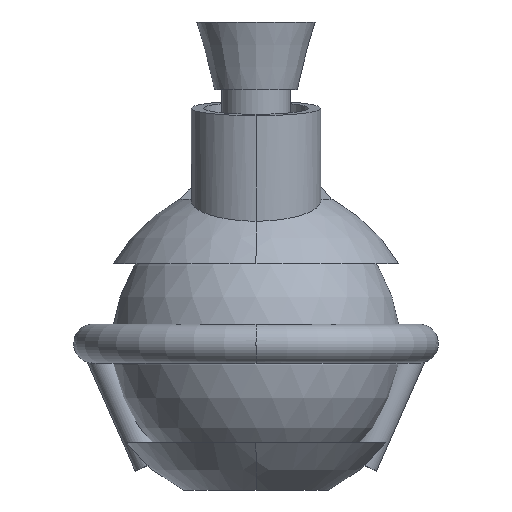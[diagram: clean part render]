
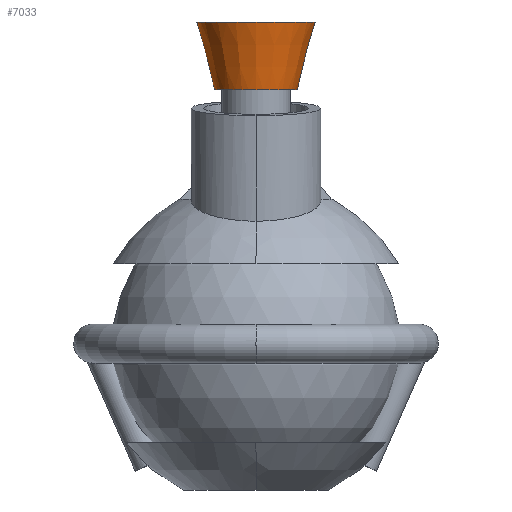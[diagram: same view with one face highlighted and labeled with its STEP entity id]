
A CAD part, left-side view. The second image highlights one B-rep face of the part: STEP entity #7033.
In plain terms, the highlighted conical face has half-angle 14.621 degrees and reference radius 7 mm.
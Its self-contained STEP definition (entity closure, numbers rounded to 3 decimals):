
#3631 = PLANE('',#3632);
#3632 = AXIS2_PLACEMENT_3D('',#3633,#3634,#3635);
#3633 = CARTESIAN_POINT('',(-40.5,0.,74.));
#3634 = DIRECTION('',(0.,0.,1.));
#3635 = DIRECTION('',(1.,0.,0.));
#5734 = EDGE_CURVE('',#5735,#5735,#5737,.T.);
#5735 = VERTEX_POINT('',#5736);
#5736 = CARTESIAN_POINT('',(-33.5,0.,74.));
#5737 = SURFACE_CURVE('',#5738,(#5743,#5750),.PCURVE_S1.);
#5738 = CIRCLE('',#5739,7.);
#5739 = AXIS2_PLACEMENT_3D('',#5740,#5741,#5742);
#5740 = CARTESIAN_POINT('',(-40.5,0.,74.));
#5741 = DIRECTION('',(0.,0.,1.));
#5742 = DIRECTION('',(1.,0.,0.));
#5743 = PCURVE('',#3631,#5744);
#5744 = DEFINITIONAL_REPRESENTATION('',(#5745),#5749);
#5745 = CIRCLE('',#5746,7.);
#5746 = AXIS2_PLACEMENT_2D('',#5747,#5748);
#5747 = CARTESIAN_POINT('',(0.,0.));
#5748 = DIRECTION('',(1.,0.));
#5749 = ( GEOMETRIC_REPRESENTATION_CONTEXT(2) 
PARAMETRIC_REPRESENTATION_CONTEXT() REPRESENTATION_CONTEXT('2D SPACE',''
  ) );
#5750 = PCURVE('',#5751,#5756);
#5751 = CONICAL_SURFACE('',#5752,7.,0.255);
#5752 = AXIS2_PLACEMENT_3D('',#5753,#5754,#5755);
#5753 = CARTESIAN_POINT('',(-40.5,0.,74.));
#5754 = DIRECTION('',(0.,0.,1.));
#5755 = DIRECTION('',(1.,0.,0.));
#5756 = DEFINITIONAL_REPRESENTATION('',(#5757),#5761);
#5757 = LINE('',#5758,#5759);
#5758 = CARTESIAN_POINT('',(0.,0.));
#5759 = VECTOR('',#5760,1.);
#5760 = DIRECTION('',(1.,0.));
#5761 = ( GEOMETRIC_REPRESENTATION_CONTEXT(2) 
PARAMETRIC_REPRESENTATION_CONTEXT() REPRESENTATION_CONTEXT('2D SPACE',''
  ) );
#7033 = ADVANCED_FACE('',(#7034),#5751,.T.);
#7034 = FACE_BOUND('',#7035,.T.);
#7035 = EDGE_LOOP('',(#7036,#7037,#7057,#7084));
#7036 = ORIENTED_EDGE('',*,*,#5734,.T.);
#7037 = ORIENTED_EDGE('',*,*,#7038,.T.);
#7038 = EDGE_CURVE('',#5735,#7039,#7041,.T.);
#7039 = VERTEX_POINT('',#7040);
#7040 = CARTESIAN_POINT('',(-30.5,0.,85.5));
#7041 = SEAM_CURVE('',#7042,(#7045,#7051),.PCURVE_S1.);
#7042 = B_SPLINE_CURVE_WITH_KNOTS('',1,(#7043,#7044),.UNSPECIFIED.,.F.,
  .F.,(2,2),(0.,1.),.PIECEWISE_BEZIER_KNOTS.);
#7043 = CARTESIAN_POINT('',(-33.5,0.,74.));
#7044 = CARTESIAN_POINT('',(-30.5,0.,85.5));
#7045 = PCURVE('',#5751,#7046);
#7046 = DEFINITIONAL_REPRESENTATION('',(#7047),#7050);
#7047 = B_SPLINE_CURVE_WITH_KNOTS('',1,(#7048,#7049),.UNSPECIFIED.,.F.,
  .F.,(2,2),(0.,1.),.PIECEWISE_BEZIER_KNOTS.);
#7048 = CARTESIAN_POINT('',(6.283,0.));
#7049 = CARTESIAN_POINT('',(6.283,11.5));
#7050 = ( GEOMETRIC_REPRESENTATION_CONTEXT(2) 
PARAMETRIC_REPRESENTATION_CONTEXT() REPRESENTATION_CONTEXT('2D SPACE',''
  ) );
#7051 = PCURVE('',#5751,#7052);
#7052 = DEFINITIONAL_REPRESENTATION('',(#7053),#7056);
#7053 = B_SPLINE_CURVE_WITH_KNOTS('',1,(#7054,#7055),.UNSPECIFIED.,.F.,
  .F.,(2,2),(0.,1.),.PIECEWISE_BEZIER_KNOTS.);
#7054 = CARTESIAN_POINT('',(0.,0.));
#7055 = CARTESIAN_POINT('',(0.,11.5));
#7056 = ( GEOMETRIC_REPRESENTATION_CONTEXT(2) 
PARAMETRIC_REPRESENTATION_CONTEXT() REPRESENTATION_CONTEXT('2D SPACE',''
  ) );
#7057 = ORIENTED_EDGE('',*,*,#7058,.F.);
#7058 = EDGE_CURVE('',#7039,#7039,#7059,.T.);
#7059 = SURFACE_CURVE('',#7060,(#7065,#7072),.PCURVE_S1.);
#7060 = CIRCLE('',#7061,10.);
#7061 = AXIS2_PLACEMENT_3D('',#7062,#7063,#7064);
#7062 = CARTESIAN_POINT('',(-40.5,0.,85.5));
#7063 = DIRECTION('',(0.,0.,1.));
#7064 = DIRECTION('',(1.,0.,0.));
#7065 = PCURVE('',#5751,#7066);
#7066 = DEFINITIONAL_REPRESENTATION('',(#7067),#7071);
#7067 = LINE('',#7068,#7069);
#7068 = CARTESIAN_POINT('',(0.,11.5));
#7069 = VECTOR('',#7070,1.);
#7070 = DIRECTION('',(1.,0.));
#7071 = ( GEOMETRIC_REPRESENTATION_CONTEXT(2) 
PARAMETRIC_REPRESENTATION_CONTEXT() REPRESENTATION_CONTEXT('2D SPACE',''
  ) );
#7072 = PCURVE('',#7073,#7078);
#7073 = PLANE('',#7074);
#7074 = AXIS2_PLACEMENT_3D('',#7075,#7076,#7077);
#7075 = CARTESIAN_POINT('',(-40.5,0.,85.5));
#7076 = DIRECTION('',(0.,0.,1.));
#7077 = DIRECTION('',(1.,0.,0.));
#7078 = DEFINITIONAL_REPRESENTATION('',(#7079),#7083);
#7079 = CIRCLE('',#7080,10.);
#7080 = AXIS2_PLACEMENT_2D('',#7081,#7082);
#7081 = CARTESIAN_POINT('',(0.,0.));
#7082 = DIRECTION('',(1.,0.));
#7083 = ( GEOMETRIC_REPRESENTATION_CONTEXT(2) 
PARAMETRIC_REPRESENTATION_CONTEXT() REPRESENTATION_CONTEXT('2D SPACE',''
  ) );
#7084 = ORIENTED_EDGE('',*,*,#7038,.F.);
